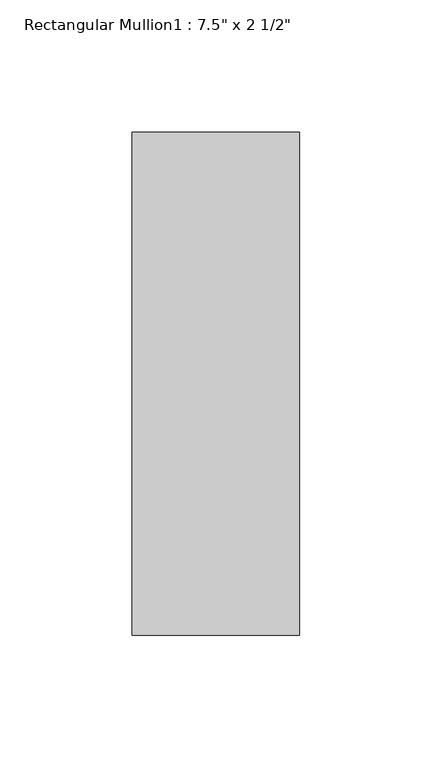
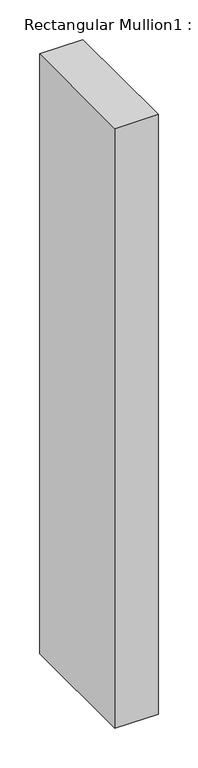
"""IFC4 building model written with IfcOpenShell, lengths in millimetres: member geometry."""

import ifcopenshell
import ifcopenshell.guid

model = None  # the IFC model being written
_history = None  # IfcOwnerHistory: only IFC2X3 demands one
_inside = {}  # id of a spatial element -> (the spatial element, [elements in it])
_under = {}  # id of a project, library or spatial element -> (it, [spatial elements below it])
_declared = {}  # id of a project -> (the project, [libraries it declares])
_typed = {}  # id of a type object -> (the type object, [elements of that type])
_made_of = {}  # id of a material, layer set ... -> (it, [elements and type objects made of it])


def new_model(schema):
    """Start an empty IFC model of exactly this schema.

    Asked for "IFC4X3", IfcOpenShell would pick the latest addendum, in which some entities
    have other attributes; the version numbers below select the first issue.
    IFC2X3 requires an IfcOwnerHistory on every rooted entity: one is made here for all.
    """
    global model, _history
    if schema == "IFC4X3":
        model = ifcopenshell.file(schema_version=(4, 3, 0, 0))
    else:
        model = ifcopenshell.file(schema=schema)
    _inside.clear()
    _under.clear()
    _declared.clear()
    _typed.clear()
    _made_of.clear()
    _history = None
    if model.schema == "IFC2X3":
        org = make("IfcOrganization", Name="unknown")
        user = make(
            "IfcPersonAndOrganization",
            ThePerson=make("IfcPerson", FamilyName="unknown"),
            TheOrganization=org,
        )
        app = make(
            "IfcApplication",
            ApplicationDeveloper=org,
            Version="unknown",
            ApplicationFullName="unknown",
            ApplicationIdentifier="unknown",
        )
        _history = make(
            "IfcOwnerHistory",
            OwningUser=user,
            OwningApplication=app,
            ChangeAction="ADDED",
            CreationDate=0,
        )
    return model


def make(cls, **values):
    """One entity of the class cls with the attributes given. An attribute that is None is left unset."""
    return model.create_entity(
        cls, **{name: value for name, value in values.items() if value is not None}
    )


def rooted(cls, **values):
    """An entity with a GlobalId (a new one), such as an element, a storey or a relation."""
    return make(cls, GlobalId=ifcopenshell.guid.new(), OwnerHistory=_history, **values)


def si_unit(unit_type, name, prefix=None):
    """IfcSIUnit, for example si_unit("LENGTHUNIT", "METRE", prefix="MILLI")."""
    return make("IfcSIUnit", UnitType=unit_type, Prefix=prefix, Name=name)


def assignment(units):
    """IfcUnitAssignment: the units of a project."""
    return None if units is None else make("IfcUnitAssignment", Units=units)


def point(xyz):
    """IfcCartesianPoint."""
    return None if xyz is None else make("IfcCartesianPoint", Coordinates=xyz)


def direction(xyz):
    """IfcDirection."""
    return None if xyz is None else make("IfcDirection", DirectionRatios=xyz)


def frame(location, z_axis=None, x_axis=None):
    """IfcAxis2Placement3D, a coordinate frame: its origin and axes. An axis left out is left unset."""
    return make(
        "IfcAxis2Placement3D",
        Location=point(location),
        Axis=direction(z_axis),
        RefDirection=direction(x_axis),
    )


def origin():
    """The frame at (0, 0, 0) with its axes left unset."""
    return frame((0.0, 0.0, 0.0))


def place(relative_to, where):
    """IfcLocalPlacement: puts the frame where relative to a parent placement (None: the world)."""
    return make(
        "IfcLocalPlacement", PlacementRelTo=relative_to, RelativePlacement=where
    )


def context(
    kind, dimensions, precision=None, world=None, true_north=None, identifier=None
):
    """IfcGeometricRepresentationContext, for example the 3D "Model" context."""
    return make(
        "IfcGeometricRepresentationContext",
        ContextIdentifier=identifier,
        ContextType=kind,
        CoordinateSpaceDimension=dimensions,
        Precision=precision,
        WorldCoordinateSystem=world,
        TrueNorth=true_north,
    )


def project(units=None, contexts=None):
    """IfcProject with its units and contexts."""
    return rooted(
        "IfcProject",
        Name="project",
        RepresentationContexts=contexts,
        UnitsInContext=assignment(units),
    )


def spatial(cls, under=None, at=None, **own):
    """A site, building, storey or space (cls), placed at a placement, below another one or the project."""
    s = rooted(cls, ObjectPlacement=at, **own)
    if under is not None:
        _under.setdefault(under.id(), (under, []))[1].append(s)
    return s


def polyline(points):
    """IfcPolyline through the points."""
    return make("IfcPolyline", Points=[point(p) for p in points])


def outline(outer, holes=None, kind="AREA"):
    """IfcArbitraryClosedProfileDef: a profile drawn as a closed curve; with holes, ...WithVoids."""
    if holes is None:
        return make("IfcArbitraryClosedProfileDef", ProfileType=kind, OuterCurve=outer)
    return make(
        "IfcArbitraryProfileDefWithVoids",
        ProfileType=kind,
        OuterCurve=outer,
        InnerCurves=holes,
    )


def extrude(swept, where, along, depth):
    """IfcExtrudedAreaSolid: the profile swept, set in the frame where, extruded along a direction by depth."""
    return make(
        "IfcExtrudedAreaSolid",
        SweptArea=swept,
        Position=where,
        ExtrudedDirection=direction(along),
        Depth=depth,
    )


def shape(context_of_items, identifier, shape_type, items):
    """IfcShapeRepresentation: the items that make up one representation, for example the "Body"."""
    return make(
        "IfcShapeRepresentation",
        ContextOfItems=context_of_items,
        RepresentationIdentifier=identifier,
        RepresentationType=shape_type,
        Items=items,
    )


def source(mapping_origin, context_of_items, identifier, shape_type, items):
    """IfcRepresentationMap: a shape defined once, which mapped items show again and again."""
    return make(
        "IfcRepresentationMap",
        MappingOrigin=mapping_origin,
        MappedRepresentation=shape(context_of_items, identifier, shape_type, items),
    )


def transform(
    local_origin,
    x_axis=None,
    y_axis=None,
    z_axis=None,
    scale=None,
    scale2=None,
    scale3=None,
    uniform=True,
):
    """IfcCartesianTransformationOperator3D, or its non-uniform kind. x_axis, y_axis, z_axis: its Axis1, 2, 3."""
    if uniform:
        return make(
            "IfcCartesianTransformationOperator3D",
            Axis1=direction(x_axis),
            Axis2=direction(y_axis),
            LocalOrigin=point(local_origin),
            Scale=scale,
            Axis3=direction(z_axis),
        )
    return make(
        "IfcCartesianTransformationOperator3DnonUniform",
        Axis1=direction(x_axis),
        Axis2=direction(y_axis),
        LocalOrigin=point(local_origin),
        Scale=scale,
        Axis3=direction(z_axis),
        Scale2=scale2,
        Scale3=scale3,
    )


def mapped(mapping_source, mapping_target):
    """IfcMappedItem: shows the shape of a source again, moved by a transform."""
    return make(
        "IfcMappedItem", MappingSource=mapping_source, MappingTarget=mapping_target
    )


def made_of(thing, what):
    """Note that an element or type object is made of a material, layer set ...; save() writes the relation."""
    if what is not None:
        _made_of.setdefault(what.id(), (what, []))[1].append(thing)
    return thing


def element(
    cls,
    number,
    at=None,
    inside=None,
    cuts=None,
    type_object=None,
    material=None,
    context=None,
    identifier="Body",
    shape_type=None,
    held_by="IfcProductDefinitionShape",
    body=None,
    shapes=None,
    **own,
):
    """One element of the class cls, such as IfcWall. Its Tag is "e" and its number.

    at: its placement. inside: the storey or other place that contains it. cuts: it is an
    opening in that element (IfcRelVoidsElement). A single representation is given by context,
    identifier, shape_type and body (its items); several are given by shapes. held_by: the class
    of the entity that holds the representations. save() writes the other relations.
    """
    e = rooted(cls, Tag="e%d" % number, ObjectPlacement=at, **own)
    if body is not None:
        shapes = [shape(context, identifier, shape_type, body)]
    if shapes is not None:
        e.Representation = make(held_by, Representations=shapes)
    if inside is not None:
        _inside.setdefault(inside.id(), (inside, []))[1].append(e)
    if cuts is not None:
        rooted(
            "IfcRelVoidsElement", RelatingBuildingElement=cuts, RelatedOpeningElement=e
        )
    if type_object is not None:
        _typed.setdefault(type_object.id(), (type_object, []))[1].append(e)
    return made_of(e, material)


def aggregate(whole, parts):
    """IfcRelAggregates: a whole, such as a stair, and the parts it consists of."""
    return rooted("IfcRelAggregates", RelatingObject=whole, RelatedObjects=parts)


def save(model, path):
    """Write the relations noted so far, then the file.

    IfcRelAggregates (storeys below a building ...), IfcRelContainedInSpatialStructure (elements
    in a storey), IfcRelDefinesByType, IfcRelAssociatesMaterial and IfcRelDeclares: one each for
    every whole, place, type object, material and project.
    """
    for whole, parts in _under.values():
        aggregate(whole, parts)
    for where, things in _inside.values():
        rooted(
            "IfcRelContainedInSpatialStructure",
            RelatedElements=things,
            RelatingStructure=where,
        )
    for kind, things in _typed.values():
        rooted("IfcRelDefinesByType", RelatedObjects=things, RelatingType=kind)
    for what, things in _made_of.values():
        rooted("IfcRelAssociatesMaterial", RelatedObjects=things, RelatingMaterial=what)
    for by, libraries in _declared.values():
        rooted("IfcRelDeclares", RelatingContext=by, RelatedDefinitions=libraries)
    model.write(path)


def member_1b9a5cfb(model_context):
    return source(origin(), model_context, "Body", "SweptSolid", [
        extrude(outline(polyline([(0.0, 165.1), (0.0, -25.4), (-63.5, -25.4), (-63.5, 165.1), (0.0, 165.1)])), frame((0.0, 0.0, -926.1637778), z_axis=(0.0, 0.0, 1.0), x_axis=(1.0, 0.0, 0.0)), (0.0, 0.0, 1.0), 926.1637778),
    ])


if __name__ == "__main__":
    model = new_model("IFC4")
    model_context = context("Model", 3, world=origin())
    ifc_project = project(units=[si_unit("LENGTHUNIT", "METRE", prefix="MILLI")], contexts=[model_context])
    site = spatial("IfcSite", under=ifc_project)
    building = spatial("IfcBuilding", under=site)
    placement = place(None, origin())
    member_shape = member_1b9a5cfb(model_context)
    element("IfcMember", 1, ObjectType="Rectangular Mullion1 : 7.5\" x 2 1/2\"", at=placement, inside=building, context=model_context, shape_type="MappedRepresentation", body=[
        mapped(member_shape, transform((0.0, 0.0, 0.0), x_axis=(1.0, 0.0, 0.0), y_axis=(0.0, 1.0, 0.0), z_axis=(0.0, 0.0, 1.0))),
    ])
    save(model, "model.ifc")
